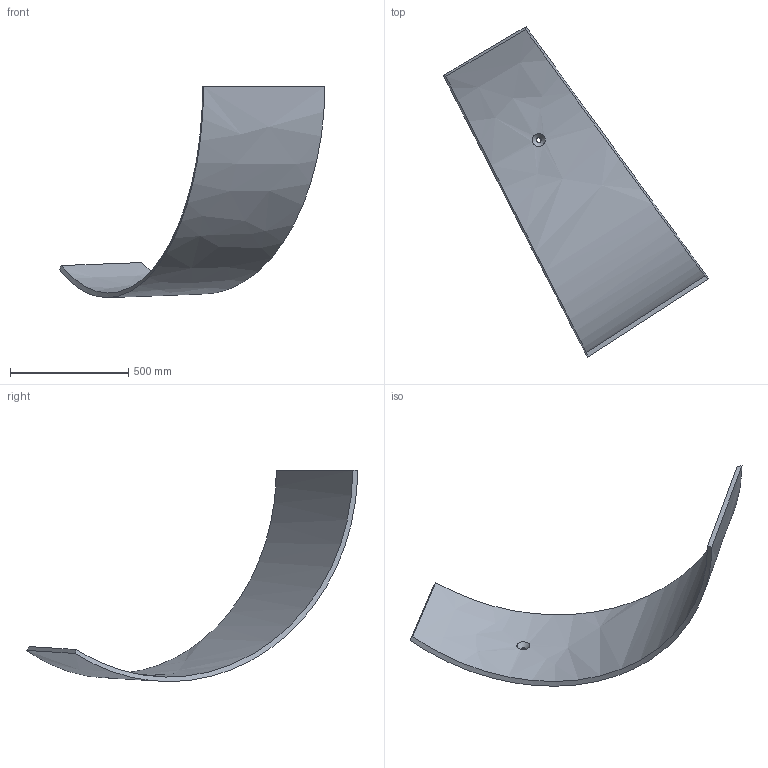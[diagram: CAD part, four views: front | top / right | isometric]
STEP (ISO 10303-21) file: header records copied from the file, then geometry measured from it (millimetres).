
FILE_DESCRIPTION (( 'STEP AP214' ), '1' );
FILE_NAME ('P10.2Mirror.STEP', '2025-01-09T19:43:26', ( '' ), ( '' ), 'SwSTEP 2.0', 'SolidWorks 2024', '' );
FILE_SCHEMA (( 'AUTOMOTIVE_DESIGN' ));
Length unit declared in the file: inch
Products named in the file (1): P10.2Mirror
Bounding box: 1124.95 x 1401.83 x 894.48 mm (x, y, z)
Volume: 18773341.6 mm3; surface area: 2014176.1 mm2
Topology: 1 solids, 1 shells, 8 faces, 18 edges, 12 vertices
Faces by surface type: bspline 7, cylinder 1
Full cylindrical faces by diameter (mm): 19.447 x1
Entity records: 2935 total; most frequent: CARTESIAN_POINT 2787, ORIENTED_EDGE 30, EDGE_CURVE 15, B_SPLINE_CURVE_WITH_KNOTS 15, EDGE_LOOP 12, VERTEX_POINT 11, FACE_OUTER_BOUND 10, ADVANCED_FACE 8
